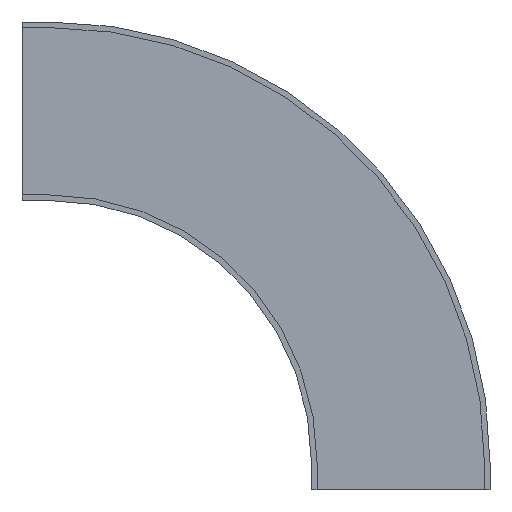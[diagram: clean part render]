
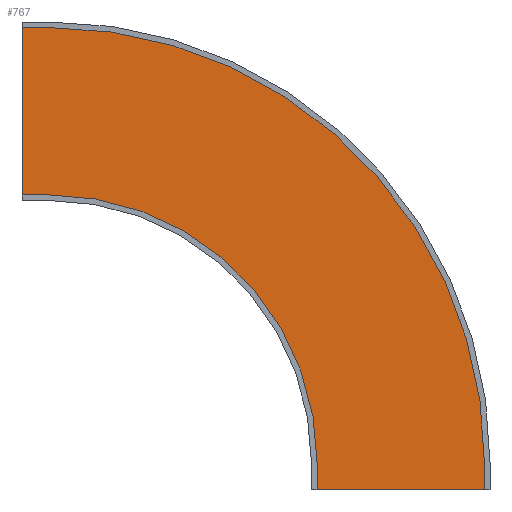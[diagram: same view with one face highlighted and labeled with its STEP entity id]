
A CAD part, front view. The second image highlights one B-rep face of the part: STEP entity #767.
In plain terms, the highlighted planar face has unit normal (0, -1, 0).
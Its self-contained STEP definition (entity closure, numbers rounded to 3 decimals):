
#93 = ORIENTED_EDGE ( 'NONE', *, *, #1900, .F. ) ;
#94 = ORIENTED_EDGE ( 'NONE', *, *, #1901, .F. ) ;
#95 = ORIENTED_EDGE ( 'NONE', *, *, #1902, .F. ) ;
#96 = ORIENTED_EDGE ( 'NONE', *, *, #1903, .T. ) ;
#97 = ORIENTED_EDGE ( 'NONE', *, *, #1897, .T. ) ;
#98 = ORIENTED_EDGE ( 'NONE', *, *, #1904, .F. ) ;
#99 = ORIENTED_EDGE ( 'NONE', *, *, #1905, .F. ) ;
#100 = ORIENTED_EDGE ( 'NONE', *, *, #1906, .T. ) ;
#383 = FACE_OUTER_BOUND ( 'NONE', #1565, .T. ) ;
#709 = CIRCLE ( 'NONE', #1758, 975.2 ) ;
#711 = LINE ( 'NONE', #1295, #718 ) ;
#714 = CIRCLE ( 'NONE', #1759, 1584.8 ) ;
#716 = LINE ( 'NONE', #1293, #720 ) ;
#717 = LINE ( 'NONE', #1294, #726 ) ;
#718 = VECTOR ( 'NONE', #1286, 1000. ) ;
#719 = LINE ( 'NONE', #1300, #722 ) ;
#720 = VECTOR ( 'NONE', #1299, 1000. ) ;
#721 = LINE ( 'NONE', #1302, #724 ) ;
#722 = VECTOR ( 'NONE', #1301, 1000. ) ;
#724 = VECTOR ( 'NONE', #1304, 1000. ) ;
#725 = LINE ( 'NONE', #1306, #728 ) ;
#726 = VECTOR ( 'NONE', #1305, 1000. ) ;
#728 = VECTOR ( 'NONE', #1307, 1000. ) ;
#767 = ADVANCED_FACE ( 'NONE', ( #383 ), #1510, .F. ) ;
#1138 = CARTESIAN_POINT ( 'NONE',  ( 1584.8, -68., 0. ) ) ;
#1145 = CARTESIAN_POINT ( 'NONE',  ( 0., -68., 975.2 ) ) ;
#1148 = CARTESIAN_POINT ( 'NONE',  ( 975.2, -68., 0. ) ) ;
#1149 = CARTESIAN_POINT ( 'NONE',  ( 975.2, -68., -100. ) ) ;
#1150 = CARTESIAN_POINT ( 'NONE',  ( -100., -68., 1584.8 ) ) ;
#1151 = CARTESIAN_POINT ( 'NONE',  ( 0., -68., 1584.8 ) ) ;
#1152 = CARTESIAN_POINT ( 'NONE',  ( -100., -68., 975.2 ) ) ;
#1155 = CARTESIAN_POINT ( 'NONE',  ( 1584.8, -68., -100. ) ) ;
#1286 = DIRECTION ( 'NONE',  ( 1., 0., 0. ) ) ;
#1288 = CARTESIAN_POINT ( 'NONE',  ( 0., -68., 0. ) ) ;
#1289 = DIRECTION ( 'NONE',  ( 0., 1., 0. ) ) ;
#1290 = DIRECTION ( 'NONE',  ( -1., 0., 0. ) ) ;
#1293 = CARTESIAN_POINT ( 'NONE',  ( -100., -68., 0. ) ) ;
#1294 = CARTESIAN_POINT ( 'NONE',  ( 0., -68., -100. ) ) ;
#1295 = CARTESIAN_POINT ( 'NONE',  ( -100., -68., 1584.8 ) ) ;
#1296 = CARTESIAN_POINT ( 'NONE',  ( 0., -68., 0. ) ) ;
#1297 = DIRECTION ( 'NONE',  ( 0., 1., 0. ) ) ;
#1298 = DIRECTION ( 'NONE',  ( -1., 0., 0. ) ) ;
#1299 = DIRECTION ( 'NONE',  ( 0., 0., 1. ) ) ;
#1300 = CARTESIAN_POINT ( 'NONE',  ( -100., -68., 975.2 ) ) ;
#1301 = DIRECTION ( 'NONE',  ( 1., 0., 0. ) ) ;
#1302 = CARTESIAN_POINT ( 'NONE',  ( 975.2, -68., -100. ) ) ;
#1304 = DIRECTION ( 'NONE',  ( 0., 0., 1. ) ) ;
#1305 = DIRECTION ( 'NONE',  ( -1., 0., 0. ) ) ;
#1306 = CARTESIAN_POINT ( 'NONE',  ( 1584.8, -68., -100. ) ) ;
#1307 = DIRECTION ( 'NONE',  ( 0., 0., 1. ) ) ;
#1507 = CARTESIAN_POINT ( 'NONE',  ( 0., -68., 975.2 ) ) ;
#1510 = PLANE ( 'NONE',  #1678 ) ;
#1511 = DIRECTION ( 'NONE',  ( 0., 1., 0. ) ) ;
#1512 = DIRECTION ( 'NONE',  ( -1., 0., 0. ) ) ;
#1565 = EDGE_LOOP ( 'NONE', ( #93, #94, #95, #96, #97, #98, #99, #100 ) ) ;
#1678 = AXIS2_PLACEMENT_3D ( 'NONE', #1507, #1511, #1512 ) ;
#1758 = AXIS2_PLACEMENT_3D ( 'NONE', #1288, #1289, #1290 ) ;
#1759 = AXIS2_PLACEMENT_3D ( 'NONE', #1296, #1297, #1298 ) ;
#1800 = VERTEX_POINT ( 'NONE', #1138 ) ;
#1807 = VERTEX_POINT ( 'NONE', #1145 ) ;
#1810 = VERTEX_POINT ( 'NONE', #1148 ) ;
#1811 = VERTEX_POINT ( 'NONE', #1149 ) ;
#1812 = VERTEX_POINT ( 'NONE', #1150 ) ;
#1813 = VERTEX_POINT ( 'NONE', #1151 ) ;
#1814 = VERTEX_POINT ( 'NONE', #1152 ) ;
#1817 = VERTEX_POINT ( 'NONE', #1155 ) ;
#1897 = EDGE_CURVE ( 'NONE', #1807, #1810, #709, .T. ) ;
#1900 = EDGE_CURVE ( 'NONE', #1813, #1800, #714, .T. ) ;
#1901 = EDGE_CURVE ( 'NONE', #1812, #1813, #711, .T. ) ;
#1902 = EDGE_CURVE ( 'NONE', #1814, #1812, #716, .T. ) ;
#1903 = EDGE_CURVE ( 'NONE', #1814, #1807, #719, .T. ) ;
#1904 = EDGE_CURVE ( 'NONE', #1811, #1810, #721, .T. ) ;
#1905 = EDGE_CURVE ( 'NONE', #1817, #1811, #717, .T. ) ;
#1906 = EDGE_CURVE ( 'NONE', #1817, #1800, #725, .T. ) ;
